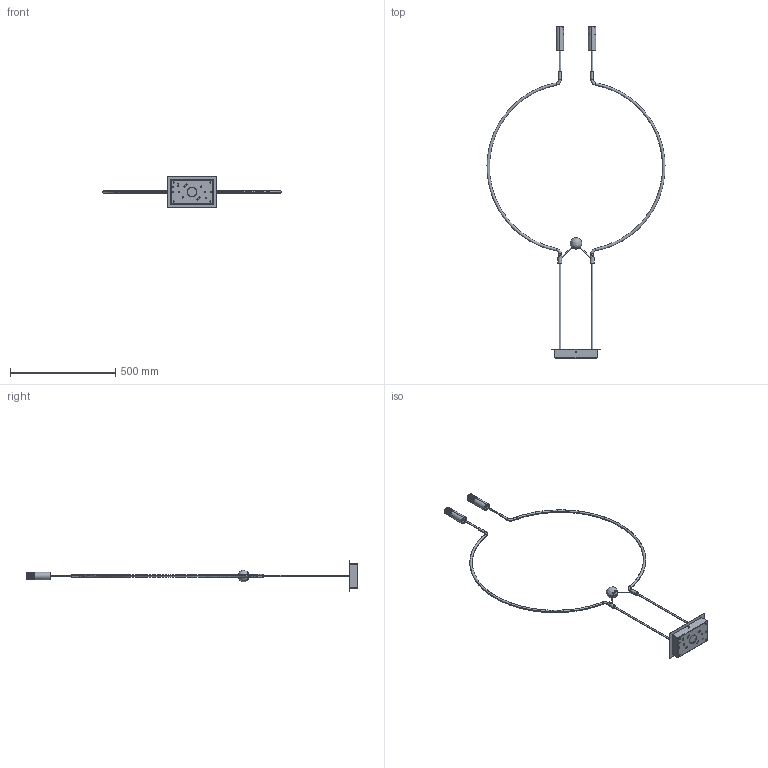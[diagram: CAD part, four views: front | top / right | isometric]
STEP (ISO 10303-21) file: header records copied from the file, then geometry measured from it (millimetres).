
FILE_DESCRIPTION (( 'STEP AP203' ), '1' );
FILE_NAME ('SPLIAIM2XXXXXXX.STEP', '2025-11-14T18:29:49', ( '' ), ( '' ), 'SwSTEP 2.0', 'SolidWorks 2024', '' );
FILE_SCHEMA (( 'CONFIG_CONTROL_DESIGN' ));
Length unit declared in the file: millimetre
Products named in the file (12): 1.0C.AXO01.LS07.01_1.IGS; SPLIAIM2XXXXLED-PENDENTE.IGS; 1.0C.AXO01.LS04.02_1.IGS; 1.0C.AXO01.LS07.02_1.IGS; 1.0C.AXO01.LS04.01_1.IGS; SPLIAIM2XXXXXXX; SPLIAIM2XXXXLED-3D.IGS; Faston Maschio ''A''_CONNETTORE AD INNESTO MASCHIO 45°.IGS; O Rings_O RING Øi. 20.35 Sp. 1.78_1.IGS; 1.0C.AXO01.LS06.05_1.IGS; Dado Autoagganciante PS_DADO AUTOAGGANCIANTE PS M4_1.IGS; Viti Testa Cilindrica Cava Esagonale_VITE M4X20 TCCE_1.IGS
Assembly tree (14 placements, depth 3):
  SPLIAIM2XXXXXXX
    SPLIAIM2XXXXLED-3D.IGS
      1.0C.AXO01.LS07.01_1.IGS
      1.0C.AXO01.LS07.02_1.IGS
      1.0C.AXO01.LS06.05_1.IGS  x2
      Dado Autoagganciante PS_DADO AUTOAGGANCIANTE PS M4_1.IGS  x2
      Faston Maschio ''A''_CONNETTORE AD INNESTO MASCHIO 45°.IGS
      SPLIAIM2XXXXLED-PENDENTE.IGS  x2
      1.0C.AXO01.LS04.01_1.IGS
      1.0C.AXO01.LS04.02_1.IGS
      O Rings_O RING Øi. 20.35 Sp. 1.78_1.IGS
      Viti Testa Cilindrica Cava Esagonale_VITE M4X20 TCCE_1.IGS
Bounding box: 843.98 x 1573.95 x 145 mm (x, y, z)
Volume: 547541.6 mm3; surface area: 514583.1 mm2
Topology: 45 solids, 45 shells, 1348 faces, 3484 edges, 2227 vertices
Faces by surface type: bspline 1348
Entity records: 41628 total; most frequent: CARTESIAN_POINT 27967, ORIENTED_EDGE 4214, EDGE_CURVE 2107, B_SPLINE_CURVE_WITH_KNOTS 1489, VERTEX_POINT 1352, EDGE_LOOP 945, ADVANCED_FACE 840, FACE_OUTER_BOUND 840
